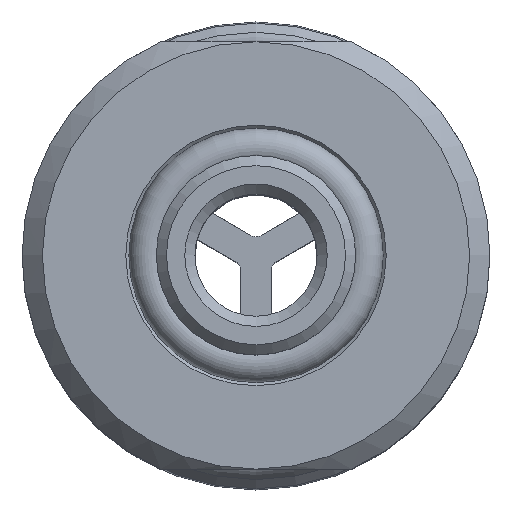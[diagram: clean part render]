
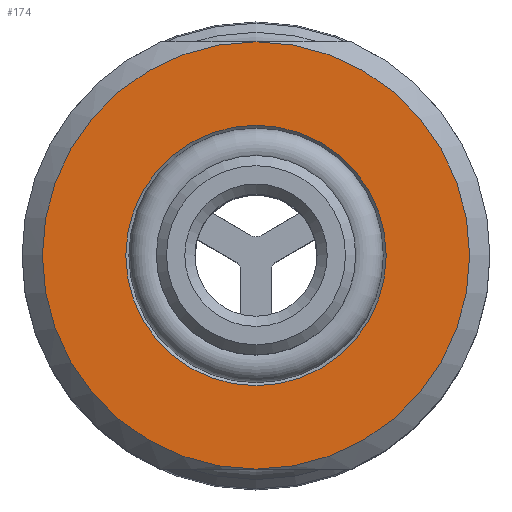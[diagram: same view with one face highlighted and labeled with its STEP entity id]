
A CAD part, top view. The second image highlights one B-rep face of the part: STEP entity #174.
In plain terms, the highlighted planar face has unit normal (0, 0, 1).
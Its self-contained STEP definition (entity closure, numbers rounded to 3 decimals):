
#174 = ADVANCED_FACE( '', ( #331, #332 ), #333, .F. );
#331 = FACE_OUTER_BOUND( '', #512, .T. );
#332 = FACE_BOUND( '', #513, .T. );
#333 = PLANE( '', #514 );
#512 = EDGE_LOOP( '', ( #1381, #1382 ) );
#513 = EDGE_LOOP( '', ( #1383 ) );
#514 = AXIS2_PLACEMENT_3D( '', #1384, #1385, #1386 );
#1381 = ORIENTED_EDGE( '', *, *, #2893, .F. );
#1382 = ORIENTED_EDGE( '', *, *, #2837, .F. );
#1383 = ORIENTED_EDGE( '', *, *, #2813, .T. );
#1384 = CARTESIAN_POINT( '', ( -6.4, 0., 3.683 ) );
#1385 = DIRECTION( '', ( 0., 0., -1. ) );
#1386 = DIRECTION( '', ( -1., 0., 0. ) );
#2813 = EDGE_CURVE( '', #7343, #7343, #7344, .T. );
#2837 = EDGE_CURVE( '', #7369, #7384, #7385, .T. );
#2893 = EDGE_CURVE( '', #7384, #7369, #7468, .T. );
#7343 = VERTEX_POINT( '', #11726 );
#7344 = CIRCLE( '', #11727, 6.4 );
#7369 = VERTEX_POINT( '', #11761 );
#7384 = VERTEX_POINT( '', #11789 );
#7385 = CIRCLE( '', #11790, 10.5 );
#7468 = CIRCLE( '', #11909, 10.5 );
#11726 = CARTESIAN_POINT( '', ( -6.4, 0., 3.683 ) );
#11727 = AXIS2_PLACEMENT_3D( '', #13440, #13441, #13442 );
#11761 = CARTESIAN_POINT( '', ( 0., -10.5, 3.683 ) );
#11789 = CARTESIAN_POINT( '', ( 0., 10.5, 3.683 ) );
#11790 = AXIS2_PLACEMENT_3D( '', #13474, #13475, #13476 );
#11909 = AXIS2_PLACEMENT_3D( '', #13540, #13541, #13542 );
#13440 = CARTESIAN_POINT( '', ( 0., 0., 3.683 ) );
#13441 = DIRECTION( '', ( 0., 0., -1. ) );
#13442 = DIRECTION( '', ( -1., 0., 0. ) );
#13474 = CARTESIAN_POINT( '', ( 0., 0., 3.683 ) );
#13475 = DIRECTION( '', ( 0., 0., -1. ) );
#13476 = DIRECTION( '', ( -1., 0., 0. ) );
#13540 = CARTESIAN_POINT( '', ( 0., 0., 3.683 ) );
#13541 = DIRECTION( '', ( 0., 0., -1. ) );
#13542 = DIRECTION( '', ( -1., 0., 0. ) );
